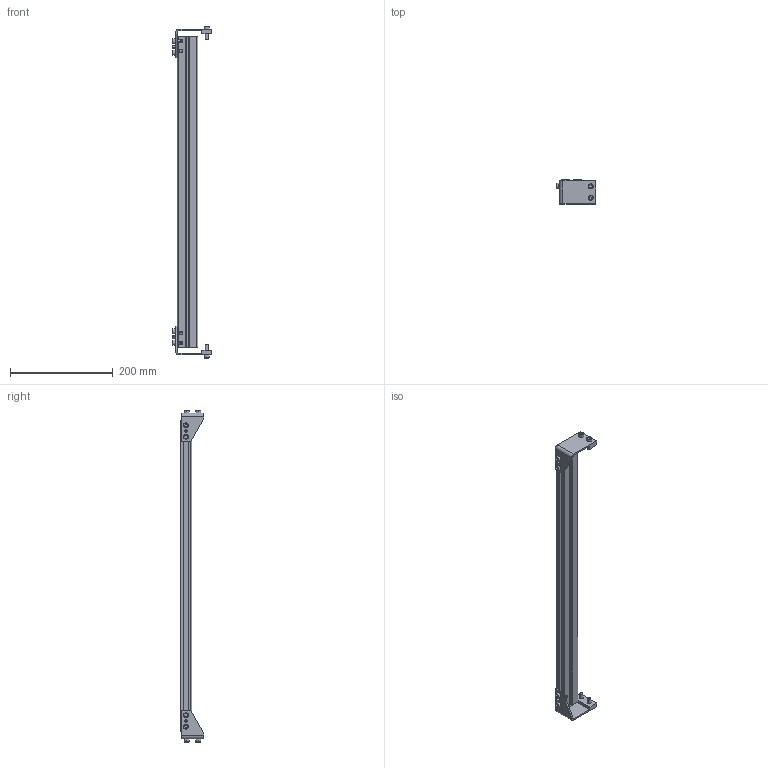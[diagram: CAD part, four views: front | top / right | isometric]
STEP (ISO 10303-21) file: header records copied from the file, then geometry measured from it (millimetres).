
FILE_DESCRIPTION((''),'2;1');
FILE_NAME('3076WWM_2_ASM','2023-03-15T',('jenni.wallner'),(''),'PRO/ENGINEER BY PARAMETRIC TECHNOLOGY CORPORATION, 2012420','PRO/ENGINEER BY PARAMETRIC TECHNOLOGY CORPORATION, 2012420','');
FILE_SCHEMA(('CONFIG_CONTROL_DESIGN'));
Length unit declared in the file: inch
Products named in the file (4): 677721_1; BRACKET_L; BRACKET_R; 3076WWM_2_ASM
Assembly tree (3 placements, depth 2):
  3076WWM_2_ASM
    677721_1
    BRACKET_L
    BRACKET_R
Bounding box: 76.2 x 46.13 x 646.42 mm (x, y, z)
Volume: 291461.5 mm3; surface area: 176011.9 mm2
Topology: 3 solids, 3 shells, 296 faces, 730 edges, 476 vertices
Faces by surface type: plane 188, cylinder 76, cone 32
Entity records: 8834 total; most frequent: DIRECTION 1520, CARTESIAN_POINT 1509, ORIENTED_EDGE 1460, EDGE_CURVE 730, VECTOR 546, LINE 546, AXIS2_PLACEMENT_3D 487, VERTEX_POINT 476
